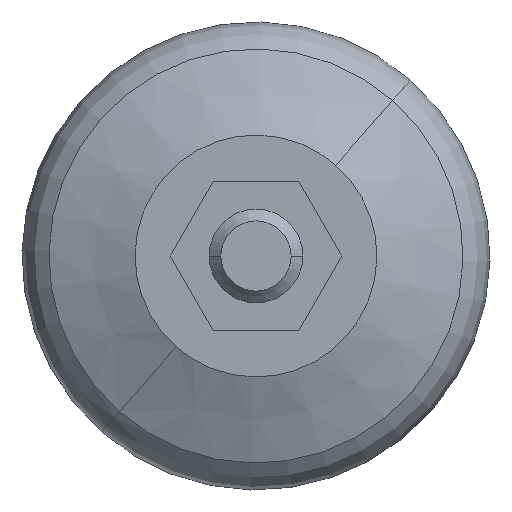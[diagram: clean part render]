
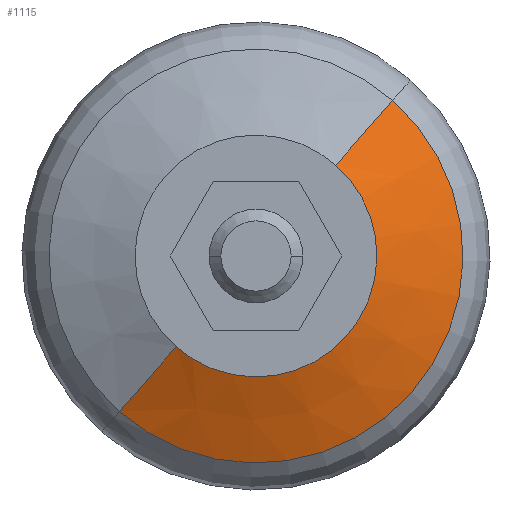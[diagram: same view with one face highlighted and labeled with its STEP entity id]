
A CAD part, left-side view. The second image highlights one B-rep face of the part: STEP entity #1115.
In plain terms, the highlighted conical face has half-angle 68 degrees and reference radius 15.5 mm.
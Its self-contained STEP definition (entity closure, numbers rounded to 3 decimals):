
#144 = DIRECTION ( 'NONE',  ( 0., 0.375, 0.927 ) ) ;
#145 = VECTOR ( 'NONE', #144, 1000. ) ;
#146 = CARTESIAN_POINT ( 'NONE',  ( 0., -15., 15.5 ) ) ;
#147 = LINE ( 'NONE', #146, #145 ) ;
#164 = CARTESIAN_POINT ( 'NONE',  ( 0., -10.541, 26.536 ) ) ;
#165 = DIRECTION ( 'NONE',  ( 0., 0., 1. ) ) ;
#166 = DIRECTION ( 'NONE',  ( 0., 1., 0. ) ) ;
#167 = CARTESIAN_POINT ( 'NONE',  ( 0., -10.541, 0. ) ) ;
#168 = AXIS2_PLACEMENT_3D ( 'NONE', #167, #166, #165 ) ;
#173 = CIRCLE ( 'NONE', #168, 26.536 ) ;
#244 = CARTESIAN_POINT ( 'NONE',  ( 0., -10.541, -26.536 ) ) ;
#1097 = EDGE_LOOP ( 'NONE', ( #1116, #1120, #1122, #1123 ) ) ;
#1115 = ADVANCED_FACE ( 'NONE', ( #2075 ), #2074, .T. ) ;
#1116 = ORIENTED_EDGE ( 'NONE', *, *, #1117, .T. ) ;
#1117 = EDGE_CURVE ( 'NONE', #1118, #1119, #2069, .T. ) ;
#1118 = VERTEX_POINT ( 'NONE', #2064 ) ;
#1119 = VERTEX_POINT ( 'NONE', #2063 ) ;
#1120 = ORIENTED_EDGE ( 'NONE', *, *, #1121, .T. ) ;
#1121 = EDGE_CURVE ( 'NONE', #1119, #1174, #2062, .T. ) ;
#1122 = ORIENTED_EDGE ( 'NONE', *, *, #1148, .F. ) ;
#1123 = ORIENTED_EDGE ( 'NONE', *, *, #1124, .F. ) ;
#1124 = EDGE_CURVE ( 'NONE', #1118, #1149, #147, .T. ) ;
#1148 = EDGE_CURVE ( 'NONE', #1149, #1174, #173, .T. ) ;
#1149 = VERTEX_POINT ( 'NONE', #164 ) ;
#1174 = VERTEX_POINT ( 'NONE', #244 ) ;
#2059 = DIRECTION ( 'NONE',  ( 0., 0.375, -0.927 ) ) ;
#2060 = VECTOR ( 'NONE', #2059, 1000. ) ;
#2061 = CARTESIAN_POINT ( 'NONE',  ( 0., -15., -15.5 ) ) ;
#2062 = LINE ( 'NONE', #2061, #2060 ) ;
#2063 = CARTESIAN_POINT ( 'NONE',  ( 0., -15., -15.5 ) ) ;
#2064 = CARTESIAN_POINT ( 'NONE',  ( 0., -15., 15.5 ) ) ;
#2065 = DIRECTION ( 'NONE',  ( 0., 0., 1. ) ) ;
#2066 = DIRECTION ( 'NONE',  ( 0., 1., 0. ) ) ;
#2067 = CARTESIAN_POINT ( 'NONE',  ( 0., -15., 0. ) ) ;
#2068 = AXIS2_PLACEMENT_3D ( 'NONE', #2067, #2066, #2065 ) ;
#2069 = CIRCLE ( 'NONE', #2068, 15.5 ) ;
#2070 = DIRECTION ( 'NONE',  ( 0., 0., 1. ) ) ;
#2071 = DIRECTION ( 'NONE',  ( 0., 1., 0. ) ) ;
#2072 = CARTESIAN_POINT ( 'NONE',  ( 0., -15., 0. ) ) ;
#2073 = AXIS2_PLACEMENT_3D ( 'NONE', #2072, #2071, #2070 ) ;
#2074 = CONICAL_SURFACE ( 'NONE', #2073, 15.5, 1.187 ) ;
#2075 = FACE_OUTER_BOUND ( 'NONE', #1097, .T. ) ;
